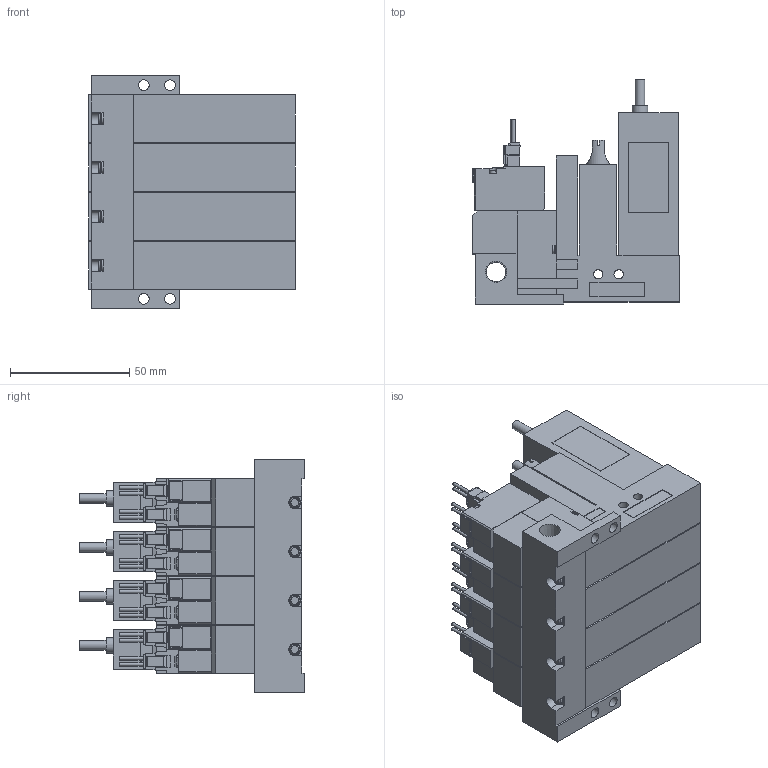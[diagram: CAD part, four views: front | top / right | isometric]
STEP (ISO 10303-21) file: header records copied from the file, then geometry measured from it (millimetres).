
FILE_DESCRIPTION(('STEP AP203'),'1');
FILE_NAME('VG_VGPL5ALR404.stp','2025-02-18T23:36:28',(' '),(' '),'Spatial InterOp 3D',' ',' ');
FILE_SCHEMA(('CONFIG_CONTROL_DESIGN'));
Length unit declared in the file: millimetre
Products named in the file (5): BMC22M※※※※VG_VGPL5ALR404; Solenoid valve A; Pressure sensor VGL; Unit L; Base MR40R
Assembly tree (13 placements, depth 2):
  BMC22M※※※※VG_VGPL5ALR404
    Solenoid valve A  x4
    Pressure sensor VGL  x4
    Unit L  x4
    Base MR40R
Bounding box: 86.6 x 94 x 97.5 mm (x, y, z)
Volume: 402881.1 mm3; surface area: 108914.4 mm2
Topology: 13 solids, 13 shells, 1537 faces, 4111 edges, 2716 vertices
Faces by surface type: plane 1294, cylinder 201, cone 30, torus 12
Full cylindrical faces by diameter (mm): 1.4 x16, 2.5 x12, 3 x16, 3.5 x16, 3.6 x4, 4 x24, 4.134 x4, 4.5 x4, 5.2 x4, 6 x4, 6.5 x4, 6.6 x4, 8.279 x1
Entity records: 13807 total; most frequent: CARTESIAN_POINT 2585, DIRECTION 2201, ORIENTED_EDGE 2178, EDGE_CURVE 1089, LINE 891, VECTOR 891, VERTEX_POINT 759, AXIS2_PLACEMENT_3D 655
